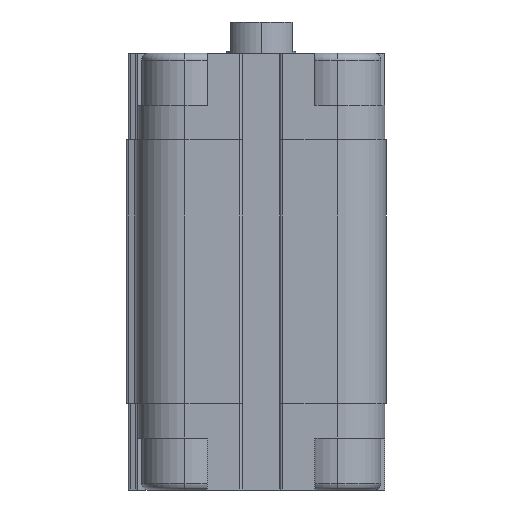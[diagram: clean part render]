
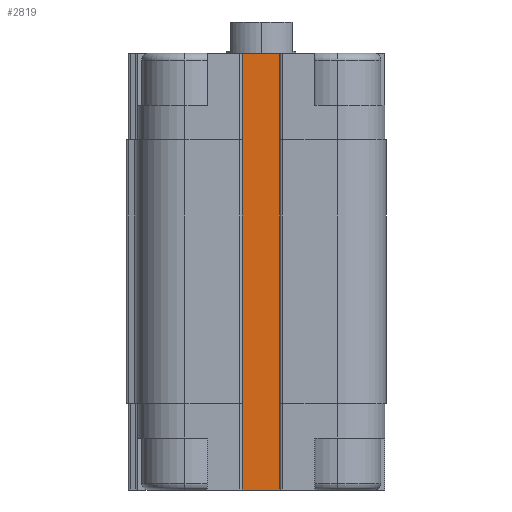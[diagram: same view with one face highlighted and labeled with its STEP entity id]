
A CAD part, left-side view. The second image highlights one B-rep face of the part: STEP entity #2819.
In plain terms, the highlighted planar face has unit normal (-1, 0, 0).
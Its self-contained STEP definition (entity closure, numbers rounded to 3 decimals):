
#266 = CARTESIAN_POINT ( 'NONE',  ( -13., -3., -63. ) ) ;
#1233 = CARTESIAN_POINT ( 'NONE',  ( -13., 3., -63. ) ) ;
#1649 = VECTOR ( 'NONE', #13180, 1000. ) ;
#2030 = EDGE_LOOP ( 'NONE', ( #4276, #9034, #13480, #17942 ) ) ;
#2501 = DIRECTION ( 'NONE',  ( 0., -1., 0. ) ) ;
#2819 = ADVANCED_FACE ( 'NONE', ( #5745 ), #4630, .T. ) ;
#3816 = EDGE_CURVE ( 'NONE', #11648, #16355, #6365, .T. ) ;
#4276 = ORIENTED_EDGE ( 'NONE', *, *, #6145, .F. ) ;
#4612 = EDGE_CURVE ( 'NONE', #4701, #5453, #17585, .T. ) ;
#4630 = PLANE ( 'NONE',  #12842 ) ;
#4701 = VERTEX_POINT ( 'NONE', #1233 ) ;
#5453 = VERTEX_POINT ( 'NONE', #7655 ) ;
#5708 = LINE ( 'NONE', #17280, #16093 ) ;
#5745 = FACE_OUTER_BOUND ( 'NONE', #2030, .T. ) ;
#6145 = EDGE_CURVE ( 'NONE', #5453, #16355, #5708, .T. ) ;
#6365 = LINE ( 'NONE', #11958, #1649 ) ;
#6391 = CARTESIAN_POINT ( 'NONE',  ( -13., 3., -12.5 ) ) ;
#6955 = VECTOR ( 'NONE', #2501, 1000. ) ;
#7601 = DIRECTION ( 'NONE',  ( 0., 0., 1. ) ) ;
#7655 = CARTESIAN_POINT ( 'NONE',  ( -13., 3., 0. ) ) ;
#8544 = CARTESIAN_POINT ( 'NONE',  ( -13., -3., 0. ) ) ;
#9034 = ORIENTED_EDGE ( 'NONE', *, *, #4612, .F. ) ;
#9896 = VECTOR ( 'NONE', #7601, 1000. ) ;
#10320 = DIRECTION ( 'NONE',  ( 0., -1., 0. ) ) ;
#11648 = VERTEX_POINT ( 'NONE', #266 ) ;
#11958 = CARTESIAN_POINT ( 'NONE',  ( -13., -3., -12.5 ) ) ;
#12842 = AXIS2_PLACEMENT_3D ( 'NONE', #14520, #17131, #10320 ) ;
#13180 = DIRECTION ( 'NONE',  ( 0., 0., 1. ) ) ;
#13480 = ORIENTED_EDGE ( 'NONE', *, *, #14767, .T. ) ;
#14068 = CARTESIAN_POINT ( 'NONE',  ( -13., 3., -63. ) ) ;
#14520 = CARTESIAN_POINT ( 'NONE',  ( -13., 3., -12.5 ) ) ;
#14767 = EDGE_CURVE ( 'NONE', #4701, #11648, #15460, .T. ) ;
#15460 = LINE ( 'NONE', #14068, #6955 ) ;
#15597 = DIRECTION ( 'NONE',  ( 0., -1., 0. ) ) ;
#16093 = VECTOR ( 'NONE', #15597, 1000. ) ;
#16355 = VERTEX_POINT ( 'NONE', #8544 ) ;
#17131 = DIRECTION ( 'NONE',  ( -1., 0., 0. ) ) ;
#17280 = CARTESIAN_POINT ( 'NONE',  ( -13., 3., 0. ) ) ;
#17585 = LINE ( 'NONE', #6391, #9896 ) ;
#17942 = ORIENTED_EDGE ( 'NONE', *, *, #3816, .T. ) ;
